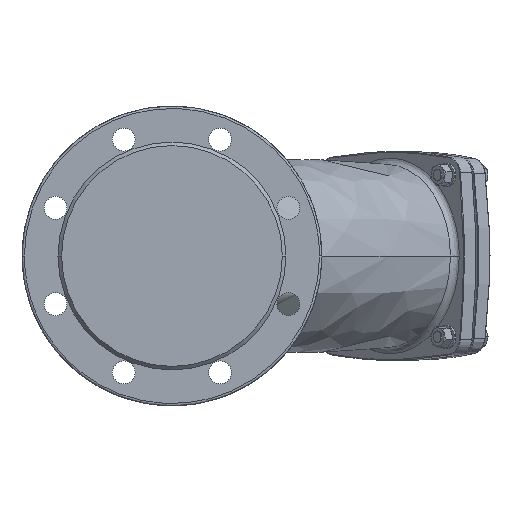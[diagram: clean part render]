
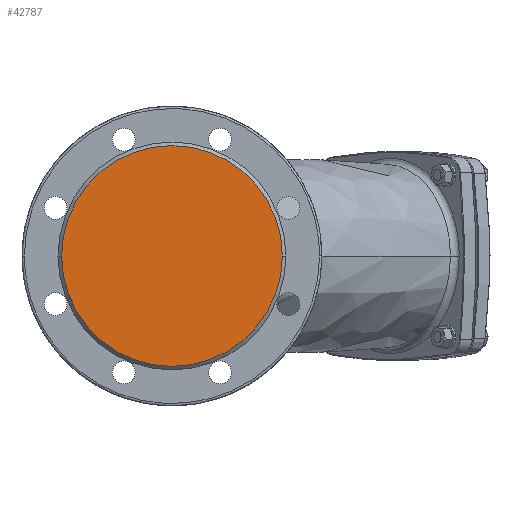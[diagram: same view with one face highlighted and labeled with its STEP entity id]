
A CAD part, left-side view. The second image highlights one B-rep face of the part: STEP entity #42787.
In plain terms, the highlighted planar face has unit normal (-1, 0, 0).
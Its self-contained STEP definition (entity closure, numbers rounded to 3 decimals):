
#271 = VERTEX_POINT ( 'NONE', #35996 ) ;
#407 = CARTESIAN_POINT ( 'NONE',  ( 0., 0., 0. ) ) ;
#1424 = DIRECTION ( 'NONE',  ( 1., 0., 0. ) ) ;
#4205 = FACE_OUTER_BOUND ( 'NONE', #26038, .T. ) ;
#7559 = ORIENTED_EDGE ( 'NONE', *, *, #41286, .F. ) ;
#9818 = DIRECTION ( 'NONE',  ( 0., 1., 0. ) ) ;
#12341 = DIRECTION ( 'NONE',  ( 1., 0., 0. ) ) ;
#21002 = EDGE_CURVE ( 'NONE', #271, #43811, #41059, .T. ) ;
#21567 = DIRECTION ( 'NONE',  ( 1., 0., 0. ) ) ;
#25583 = DIRECTION ( 'NONE',  ( 0., 0., -1. ) ) ;
#26038 = EDGE_LOOP ( 'NONE', ( #53364, #7559 ) ) ;
#32931 = DIRECTION ( 'NONE',  ( 0., 1., 0. ) ) ;
#35996 = CARTESIAN_POINT ( 'NONE',  ( 0., 92., 0. ) ) ;
#41059 = CIRCLE ( 'NONE', #46228, 92. ) ;
#41286 = EDGE_CURVE ( 'NONE', #43811, #271, #44063, .T. ) ;
#42787 = ADVANCED_FACE ( 'NONE', ( #4205 ), #46160, .F. ) ;
#42797 = CARTESIAN_POINT ( 'NONE',  ( 0., 0., 0. ) ) ;
#43811 = VERTEX_POINT ( 'NONE', #53824 ) ;
#44063 = CIRCLE ( 'NONE', #44793, 92. ) ;
#44793 = AXIS2_PLACEMENT_3D ( 'NONE', #42797, #1424, #9818 ) ;
#46160 = PLANE ( 'NONE',  #51475 ) ;
#46228 = AXIS2_PLACEMENT_3D ( 'NONE', #54077, #12341, #32931 ) ;
#51475 = AXIS2_PLACEMENT_3D ( 'NONE', #407, #21567, #25583 ) ;
#53364 = ORIENTED_EDGE ( 'NONE', *, *, #21002, .F. ) ;
#53824 = CARTESIAN_POINT ( 'NONE',  ( 0., -92., 0. ) ) ;
#54077 = CARTESIAN_POINT ( 'NONE',  ( 0., 0., 0. ) ) ;
